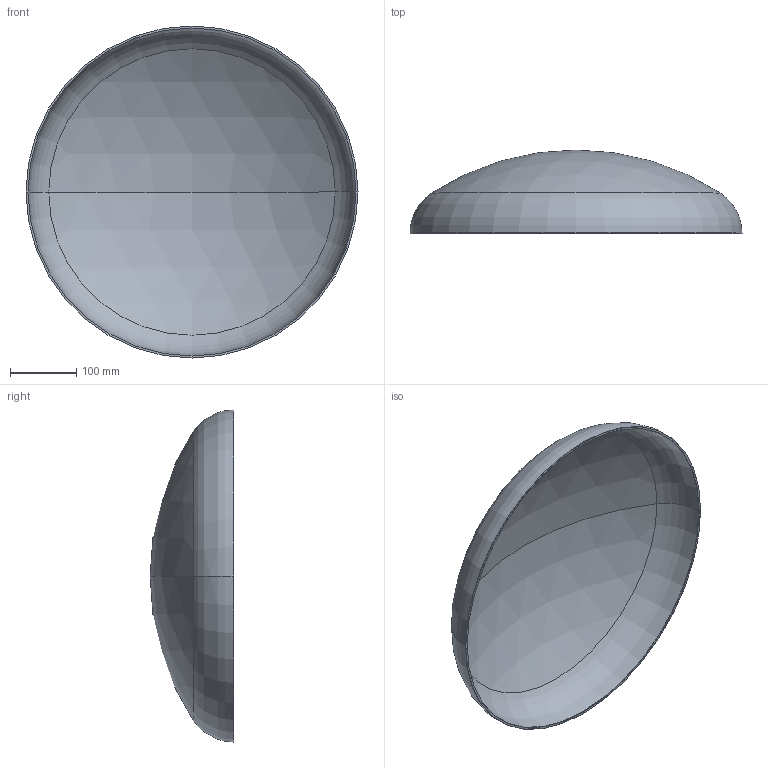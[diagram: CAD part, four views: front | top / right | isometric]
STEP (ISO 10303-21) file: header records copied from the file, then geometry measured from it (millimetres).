
FILE_DESCRIPTION (( 'STEP AP203' ), '1' );
FILE_NAME ('3D_R365_500x3_173374500.STEP', '2024-07-16T07:29:42', ( '' ), ( '' ), 'SwSTEP 2.0', 'SolidWorks 2024', '' );
FILE_SCHEMA (( 'CONFIG_CONTROL_DESIGN' ));
Length unit declared in the file: millimetre
Products named in the file (1): 3D_R365_500x3_173374500
Bounding box: 500 x 126 x 500 mm (x, y, z)
Volume: 798715 mm3; surface area: 537179.4 mm2
Topology: 1 solids, 1 shells, 13 faces, 24 edges, 14 vertices
Faces by surface type: sphere 4, torus 4, cylinder 4, plane 1
Entity records: 407 total; most frequent: DIRECTION 72, CARTESIAN_POINT 52, ORIENTED_EDGE 48, AXIS2_PLACEMENT_3D 34, EDGE_CURVE 24, CIRCLE 20, VERTEX_POINT 14, EDGE_LOOP 14
